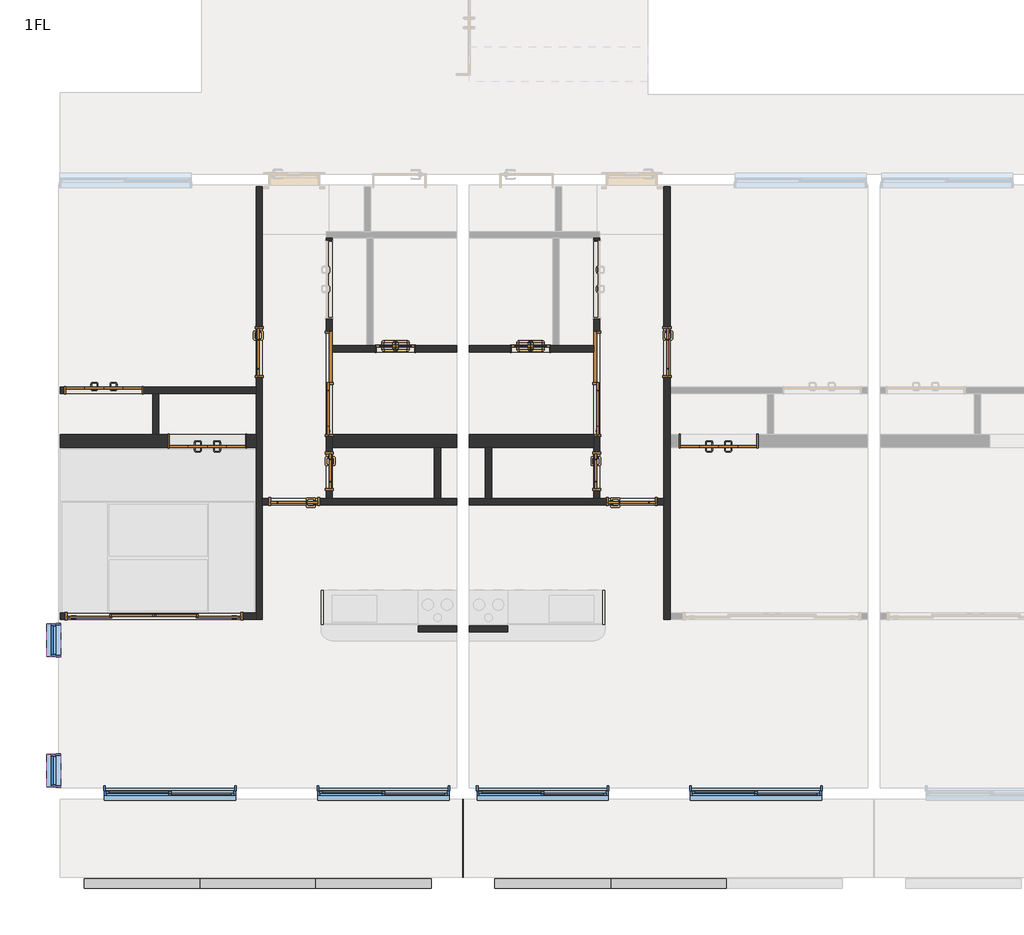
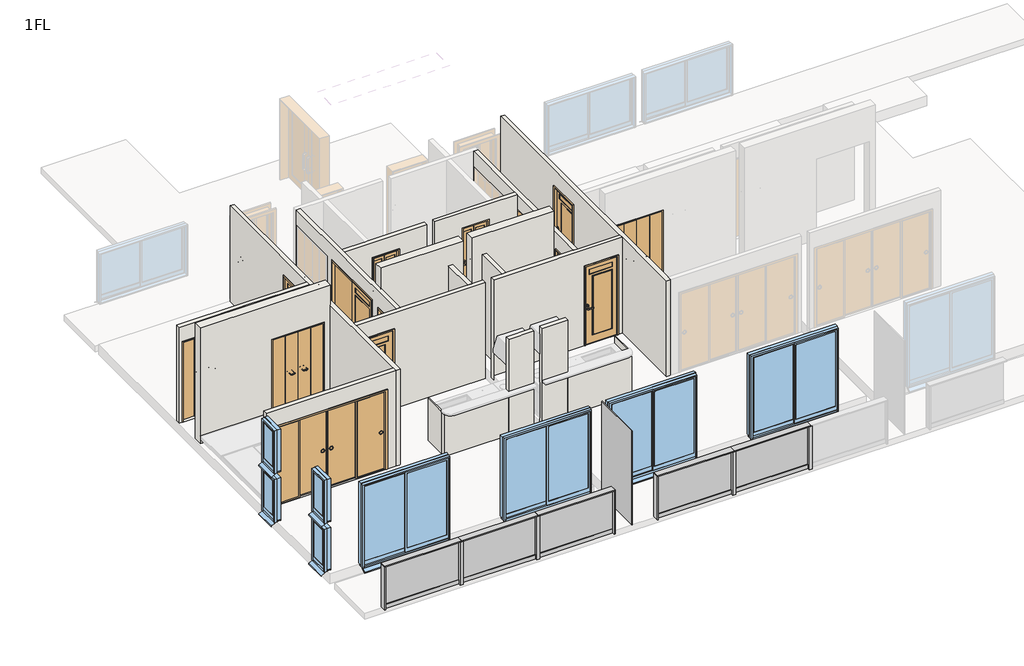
# One storey, part 1 of 3: 22 walls, 14 doors, 12 members, 8 windows, 6 plates.
"""IFC4 building model written with IfcOpenShell, lengths in millimetres."""

from ifc_helpers import new_model, si_unit, frame, origin, place, context, project, spatial, polyline, outline, extrude, faceted_brep, transform, mapped, element, save
from components import w1200h2000_98cacc9b, w1200h2000_ebe1d490, w1200h2000_6a144d60, w1600h2000_4c3c234a, w1600h2000_ca690e72, w2800h2000_670b855b, w600h2000_7f2747f4, w600h2000_6a266bef, w600h2000_94bb9c3c, w600h2000_8ea70a65, w800h2000_13e9f519, w800h2000_ccb03061, member_25x150_3f8205e2, member_25x150_f694351b, member_70x150_851c8a9b, plate_6aa9e5b9, plate_9f48129f, plate_365944b3, window_2000x2000_f1ff98da, window_450x1000_e0a5e2da

model = new_model("IFC4")

# Units and contexts
model_context = context("Model", 3, world=origin())
ifc_project = project(units=[si_unit("LENGTHUNIT", "METRE", prefix="MILLI")], contexts=[model_context])

# Site, building, storey
site = spatial("IfcSite", under=ifc_project)
building = spatial("IfcBuilding", under=site)
storey = spatial("IfcBuildingStorey", under=building, Name="1FL", Elevation=1000.0)

# Doors
placement = place(None, origin())
w1200h2000_shape = w1200h2000_98cacc9b(model_context)
element("IfcDoor", 1, ObjectType="木製折戸 : w1200h2000", at=placement, inside=storey, context=model_context, shape_type="MappedRepresentation", body=[
    mapped(w1200h2000_shape, transform((-8741.2187246, -9820.1171638, 1100.0), x_axis=(-1.0, 0.0, 0.0), y_axis=(0.0, -1.0, 0.0), z_axis=(0.0, 0.0, 1.0))),
])
w1200h2000_2_shape = w1200h2000_ebe1d490(model_context)
element("IfcDoor", 2, ObjectType="木製折戸 : w1200h2000", at=placement, inside=storey, context=model_context, shape_type="MappedRepresentation", body=[
    mapped(w1200h2000_2_shape, transform((-716.2187246, -9820.1171638, 1100.0), x_axis=(1.0, 0.0, 0.0), y_axis=(0.0, 1.0, 0.0), z_axis=(0.0, 0.0, 1.0))),
])
w1200h2000_3_shape = w1200h2000_6a144d60(model_context)
element("IfcDoor", 3, ObjectType="木製折戸 : w1200h2000", at=placement, inside=storey, context=model_context, shape_type="MappedRepresentation", body=[
    mapped(w1200h2000_3_shape, transform((-10366.2187246, -9020.1171638, 1100.0), x_axis=(1.0, 0.0, 0.0), y_axis=(0.0, 1.0, 0.0), z_axis=(0.0, 0.0, 1.0))),
])
w1600h2000_shape = w1600h2000_4c3c234a(model_context)
element("IfcDoor", 4, ObjectType="片引戸CL2017 : w1600h2000", at=placement, inside=storey, context=model_context, shape_type="MappedRepresentation", body=[
    mapped(w1600h2000_shape, transform((-6828.7187246, -8920.1171638, 1100.0), x_axis=(0.0, -1.0, 0.0), y_axis=(1.0, 0.0, 0.0), z_axis=(0.0, 0.0, 1.0))),
])
w1600h2000_2_shape = w1600h2000_ca690e72(model_context)
element("IfcDoor", 5, ObjectType="片引戸CL2017 : w1600h2000", at=placement, inside=storey, context=model_context, shape_type="MappedRepresentation", body=[
    mapped(w1600h2000_2_shape, transform((-2628.7187246, -8920.1171638, 1100.0), x_axis=(0.0, -1.0, 0.0), y_axis=(1.0, 0.0, 0.0), z_axis=(0.0, 0.0, 1.0))),
])
w2800h2000_shape = w2800h2000_670b855b(model_context)
element("IfcDoor", 6, ObjectType="引違い 4 枚 2 溝_襖 : w2800h2000", at=placement, inside=storey, context=model_context, shape_type="MappedRepresentation", body=[
    mapped(w2800h2000_shape, transform((-9584.2542286, -12570.1171638, 1100.0), x_axis=(-1.0, 0.0, 0.0), y_axis=(0.0, -1.0, 0.0), z_axis=(0.0, 0.0, 1.0))),
])
w600h2000_shape = w600h2000_7f2747f4(model_context)
element("IfcDoor", 7, ObjectType="片開戸CL2058 : w600h2000", at=placement, inside=storey, context=model_context, shape_type="MappedRepresentation", body=[
    mapped(w600h2000_shape, transform((-6828.7187246, -10295.1171638, 1100.0), x_axis=(0.0, -1.0, 0.0), y_axis=(1.0, 0.0, 0.0), z_axis=(0.0, 0.0, 1.0))),
])
w600h2000_2_shape = w600h2000_6a266bef(model_context)
element("IfcDoor", 8, ObjectType="浴室折戸 : w600h2000", at=placement, inside=storey, context=model_context, shape_type="MappedRepresentation", body=[
    mapped(w600h2000_2_shape, transform((-5788.7187246, -8370.1171638, 1100.0), x_axis=(1.0, 0.0, 0.0), y_axis=(0.0, 1.0, 0.0), z_axis=(0.0, 0.0, 1.0))),
])
w600h2000_3_shape = w600h2000_94bb9c3c(model_context)
element("IfcDoor", 9, ObjectType="浴室折戸 : w600h2000", at=placement, inside=storey, context=model_context, shape_type="MappedRepresentation", body=[
    mapped(w600h2000_3_shape, transform((-3668.7187246, -8370.1171638, 1100.0), x_axis=(-1.0, 0.0, 0.0), y_axis=(0.0, -1.0, 0.0), z_axis=(0.0, 0.0, 1.0))),
])
w600h2000_4_shape = w600h2000_8ea70a65(model_context)
element("IfcDoor", 10, ObjectType="片開戸CL2058 : w600h2000", at=placement, inside=storey, context=model_context, shape_type="MappedRepresentation", body=[
    mapped(w600h2000_4_shape, transform((-2628.7187246, -10295.1171638, 1100.0), x_axis=(0.0, -1.0, 0.0), y_axis=(1.0, 0.0, 0.0), z_axis=(0.0, 0.0, 1.0))),
])
w800h2000_shape = w800h2000_13e9f519(model_context)
element("IfcDoor", 11, ObjectType="片開戸CL2058 : w800h2000", at=placement, inside=storey, context=model_context, shape_type="MappedRepresentation", body=[
    mapped(w800h2000_shape, transform((-7928.7187246, -8420.1171638, 1100.0), x_axis=(0.0, -1.0, 0.0), y_axis=(1.0, 0.0, 0.0), z_axis=(0.0, 0.0, 1.0))),
])
element("IfcDoor", 12, ObjectType="片開戸CL2058 : w800h2000", at=placement, inside=storey, context=model_context, shape_type="MappedRepresentation", body=[
    mapped(w800h2000_shape, transform((-2078.7187246, -10770.1171638, 1100.0), x_axis=(1.0, 0.0, 0.0), y_axis=(0.0, 1.0, 0.0), z_axis=(0.0, 0.0, 1.0))),
])
w800h2000_2_shape = w800h2000_ccb03061(model_context)
element("IfcDoor", 13, ObjectType="片開戸CL2058 : w800h2000", at=placement, inside=storey, context=model_context, shape_type="MappedRepresentation", body=[
    mapped(w800h2000_2_shape, transform((-7378.7187246, -10770.1171638, 1100.0), x_axis=(-1.0, 0.0, 0.0), y_axis=(0.0, -1.0, 0.0), z_axis=(0.0, 0.0, 1.0))),
])
element("IfcDoor", 14, ObjectType="片開戸CL2058 : w800h2000", at=placement, inside=storey, context=model_context, shape_type="MappedRepresentation", body=[
    mapped(w800h2000_2_shape, transform((-1528.7187246, -8420.1171638, 1100.0), x_axis=(0.0, -1.0, 0.0), y_axis=(1.0, 0.0, 0.0), z_axis=(0.0, 0.0, 1.0))),
])

# Members
member_25x150_shape = member_25x150_3f8205e2(model_context)
element("IfcMember", 15, ObjectType="長方形のマリオン : 25x150", at=placement, inside=storey, context=model_context, shape_type="MappedRepresentation", body=[
    mapped(member_25x150_shape, transform((-5228.7187246, -16770.1171638, 1000.0), x_axis=(1.0, 0.0, 0.0), y_axis=(0.0, -1.0, 0.0), z_axis=(0.0, 0.0, -1.0))),
])
element("IfcMember", 16, ObjectType="長方形のマリオン : 25x150", at=placement, inside=storey, context=model_context, shape_type="MappedRepresentation", body=[
    mapped(member_25x150_shape, transform((-10678.7187246, -16770.1171638, 2075.0), x_axis=(-1.0, 0.0, 0.0), y_axis=(0.0, -1.0, 0.0), z_axis=(0.0, 0.0, 1.0))),
])
element("IfcMember", 17, ObjectType="長方形のマリオン : 25x150", at=placement, inside=storey, context=model_context, shape_type="MappedRepresentation", body=[
    mapped(member_25x150_shape, transform((-4228.7187246, -16770.1171638, 2075.0), x_axis=(-1.0, 0.0, 0.0), y_axis=(0.0, -1.0, 0.0), z_axis=(0.0, 0.0, 1.0))),
])
member_25x150_2_shape = member_25x150_f694351b(model_context)
element("IfcMember", 18, ObjectType="長方形のマリオン : 25x150", at=placement, inside=storey, context=model_context, shape_type="MappedRepresentation", body=[
    mapped(member_25x150_2_shape, transform((-5228.7187246, -16770.1171638, 2100.0), x_axis=(0.0, 0.0, 1.0), y_axis=(0.0, -1.0, 0.0), z_axis=(1.0, 0.0, 0.0))),
])
element("IfcMember", 19, ObjectType="長方形のマリオン : 25x150", at=placement, inside=storey, context=model_context, shape_type="MappedRepresentation", body=[
    mapped(member_25x150_2_shape, transform((-8862.052058, -16770.1171638, 2100.0), x_axis=(0.0, 0.0, 1.0), y_axis=(0.0, -1.0, 0.0), z_axis=(1.0, 0.0, 0.0))),
])
element("IfcMember", 20, ObjectType="長方形のマリオン : 25x150", at=placement, inside=storey, context=model_context, shape_type="MappedRepresentation", body=[
    mapped(member_25x150_2_shape, transform((-2412.052058, -16770.1171638, 2100.0), x_axis=(0.0, 0.0, 1.0), y_axis=(0.0, -1.0, 0.0), z_axis=(1.0, 0.0, 0.0))),
])
element("IfcMember", 21, ObjectType="長方形のマリオン : 25x150", at=placement, inside=storey, context=model_context, shape_type="MappedRepresentation", body=[
    mapped(member_25x150_2_shape, transform((-7045.3853913, -16770.1171638, 2100.0), x_axis=(0.0, 0.0, 1.0), y_axis=(0.0, -1.0, 0.0), z_axis=(1.0, 0.0, 0.0))),
])
element("IfcMember", 22, ObjectType="長方形のマリオン : 25x150", at=placement, inside=storey, context=model_context, shape_type="MappedRepresentation", body=[
    mapped(member_25x150_2_shape, transform((-595.3853913, -16770.1171638, 2100.0), x_axis=(0.0, 0.0, 1.0), y_axis=(0.0, -1.0, 0.0), z_axis=(1.0, 0.0, 0.0))),
])
member_70x150_shape = member_70x150_851c8a9b(model_context)
element("IfcMember", 23, ObjectType="長方形のマリオン : 70x150", at=placement, inside=storey, context=model_context, shape_type="MappedRepresentation", body=[
    mapped(member_70x150_shape, transform((-8862.052058, -16770.1171638, 1000.0), x_axis=(1.0, 0.0, 0.0), y_axis=(0.0, -1.0, 0.0), z_axis=(0.0, 0.0, -1.0))),
])
element("IfcMember", 24, ObjectType="長方形のマリオン : 70x150", at=placement, inside=storey, context=model_context, shape_type="MappedRepresentation", body=[
    mapped(member_70x150_shape, transform((-7045.3853913, -16770.1171638, 1000.0), x_axis=(1.0, 0.0, 0.0), y_axis=(0.0, -1.0, 0.0), z_axis=(0.0, 0.0, -1.0))),
])
element("IfcMember", 25, ObjectType="長方形のマリオン : 70x150", at=placement, inside=storey, context=model_context, shape_type="MappedRepresentation", body=[
    mapped(member_70x150_shape, transform((-2412.052058, -16770.1171638, 1000.0), x_axis=(1.0, 0.0, 0.0), y_axis=(0.0, -1.0, 0.0), z_axis=(0.0, 0.0, -1.0))),
])
element("IfcMember", 26, ObjectType="長方形のマリオン : 70x150", at=placement, inside=storey, context=model_context, shape_type="MappedRepresentation", body=[
    mapped(member_70x150_shape, transform((-595.3853913, -16770.1171638, 1000.0), x_axis=(1.0, 0.0, 0.0), y_axis=(0.0, -1.0, 0.0), z_axis=(0.0, 0.0, -1.0))),
])

# Plates
plate_shape = plate_6aa9e5b9(model_context)
element("IfcPlate", 27, ObjectType="システム パネル : 標準", at=placement, inside=storey, context=model_context, shape_type="MappedRepresentation", body=[
    mapped(plate_shape, transform((-4728.7187246, -16056.9921638, 950.0), x_axis=(0.0, -1.0, 0.0), y_axis=(1.0, 0.0, 0.0), z_axis=(0.0, 0.0, 1.0))),
])
plate_2_shape = plate_9f48129f(model_context)
element("IfcPlate", 28, ObjectType="r パネル FIX 下框付 : 框 H100", at=placement, inside=storey, context=model_context, shape_type="MappedRepresentation", body=[
    mapped(plate_2_shape, transform((-9775.3853913, -16770.1171638, 1000.0), x_axis=(1.0, 0.0, 0.0), y_axis=(0.0, 1.0, 0.0), z_axis=(0.0, 0.0, 1.0))),
])
element("IfcPlate", 29, ObjectType="r パネル FIX 下框付 : 框 H100", at=placement, inside=storey, context=model_context, shape_type="MappedRepresentation", body=[
    mapped(plate_2_shape, transform((-6132.052058, -16770.1171638, 1000.0), x_axis=(1.0, 0.0, 0.0), y_axis=(0.0, 1.0, 0.0), z_axis=(0.0, 0.0, 1.0))),
])
element("IfcPlate", 30, ObjectType="r パネル FIX 下框付 : 框 H100", at=placement, inside=storey, context=model_context, shape_type="MappedRepresentation", body=[
    mapped(plate_2_shape, transform((-3325.3853913, -16770.1171638, 1000.0), x_axis=(1.0, 0.0, 0.0), y_axis=(0.0, 1.0, 0.0), z_axis=(0.0, 0.0, 1.0))),
])
plate_3_shape = plate_365944b3(model_context)
element("IfcPlate", 31, ObjectType="r パネル FIX 下框付 : 框 H100", at=placement, inside=storey, context=model_context, shape_type="MappedRepresentation", body=[
    mapped(plate_3_shape, transform((-7953.7187246, -16770.1171638, 1000.0), x_axis=(1.0, 0.0, 0.0), y_axis=(0.0, 1.0, 0.0), z_axis=(0.0, 0.0, 1.0))),
])
element("IfcPlate", 32, ObjectType="r パネル FIX 下框付 : 框 H100", at=placement, inside=storey, context=model_context, shape_type="MappedRepresentation", body=[
    mapped(plate_3_shape, transform((-1503.7187246, -16770.1171638, 1000.0), x_axis=(1.0, 0.0, 0.0), y_axis=(0.0, 1.0, 0.0), z_axis=(0.0, 0.0, 1.0))),
])

# Walls
element("IfcWall", 33, ObjectType="内壁(R)RC200", at=placement, inside=storey, context=model_context, shape_type="Brep", body=[
    faceted_brep([(-11052.4687246, -9920.1171638, 1000.0), (-7978.7187246, -9920.1171638, 1000.0), (-7978.7187246, -9920.1171638, 4000.0), (-11052.4687246, -9920.1171638, 4000.0), (-9361.2187246, -9920.1171638, 3120.0), (-8121.2187246, -9920.1171638, 3120.0), (-8121.2187246, -9920.1171638, 1100.0), (-9361.2187246, -9920.1171638, 1100.0), (-11052.4687246, -9720.1171638, 1000.0), (-11052.4687246, -9720.1171638, 4000.0), (-7978.7187246, -9720.1171638, 4000.0), (-7978.7187246, -9720.1171638, 1000.0), (-9503.7187246, -9720.1171638, 1000.0), (-9603.7187246, -9720.1171638, 1000.0), (-9361.2187246, -9720.1171638, 3120.0), (-9361.2187246, -9720.1171638, 1100.0), (-8121.2187246, -9720.1171638, 1100.0), (-8121.2187246, -9720.1171638, 3120.0)], [[[0, 1, 2, 3], [4, 5, 6, 7]], [[8, 9, 10, 11, 12, 13], [14, 15, 16, 17]], [[1, 0, 8, 13, 12, 11]], [[3, 2, 10, 9]], [[0, 3, 9, 8]], [[2, 1, 11, 10]], [[15, 14, 4, 7]], [[16, 15, 7, 6]], [[17, 16, 6, 5]], [[14, 17, 5, 4]]]),
])
element("IfcWall", 34, ObjectType="内壁(R)RC200", at=placement, inside=storey, context=model_context, shape_type="Brep", body=[
    faceted_brep([(-6778.7187246, -9920.1171638, 1000.0), (-5178.7187246, -9920.1171638, 1000.0), (-5078.7187246, -9920.1171638, 1000.0), (-4828.7187246, -9920.1171638, 1000.0), (-4828.7187246, -9920.1171638, 4000.0), (-6778.7187246, -9920.1171638, 4000.0), (-6778.7187246, -9720.1171638, 1000.0), (-6778.7187246, -9720.1171638, 4000.0), (-4828.7187246, -9720.1171638, 4000.0), (-4828.7187246, -9720.1171638, 1000.0)], [[[0, 1, 2, 3, 4, 5]], [[6, 7, 8, 9]], [[3, 2, 1, 0, 6, 9]], [[5, 4, 8, 7]], [[4, 3, 9, 8]], [[0, 5, 7, 6]]]),
])
element("IfcWall", 35, ObjectType="内壁(R)RC200", at=placement, inside=storey, context=model_context, shape_type="Brep", body=[
    faceted_brep([(-2678.7187246, -9720.1171638, 1000.0), (-4628.7187246, -9720.1171638, 1000.0), (-4628.7187246, -9720.1171638, 4000.0), (-2678.7187246, -9720.1171638, 4000.0), (-2678.7187246, -9920.1171638, 1000.0), (-2678.7187246, -9920.1171638, 4000.0), (-4628.7187246, -9920.1171638, 4000.0), (-4628.7187246, -9920.1171638, 1000.0), (-4378.7187246, -9920.1171638, 1000.0), (-4278.7187246, -9920.1171638, 1000.0)], [[[0, 1, 2, 3]], [[4, 5, 6, 7, 8, 9]], [[1, 0, 4, 9, 8, 7]], [[3, 2, 6, 5]], [[0, 3, 5, 4]], [[2, 1, 7, 6]]]),
])
element("IfcWall", 36, ObjectType="(F)30", at=placement, inside=storey, context=model_context, shape_type="SweptSolid", body=[
    extrude(outline(polyline([(-6951.1124404, -12720.1171638), (-6951.1124404, -12165.1171638), (-6921.1124404, -12165.1171638), (-6921.1124404, -12720.1171638), (-6951.1124404, -12720.1171638)])), frame((0.0, 0.0, 1100.0), z_axis=(0.0, 0.0, 1.0), x_axis=(1.0, 0.0, 0.0)), (0.0, 0.0, 1.0), 1060.0),
])
element("IfcWall", 37, ObjectType="(F)30", at=placement, inside=storey, context=model_context, shape_type="SweptSolid", body=[
    extrude(outline(polyline([(-2536.3250089, -12720.1171638), (-2536.3250089, -12165.1171638), (-2506.3250089, -12165.1171638), (-2506.3250089, -12720.1171638), (-2536.3250089, -12720.1171638)])), frame((0.0, 0.0, 1100.0), z_axis=(0.0, 0.0, 1.0), x_axis=(1.0, 0.0, 0.0)), (0.0, 0.0, 1.0), 1060.0),
])
element("IfcWall", 38, ObjectType="(L1)LGS100", at=placement, inside=storey, context=model_context, shape_type="Brep", body=[
    faceted_brep([(-11052.4687246, -9070.1171638, 1000.0), (-9603.7187246, -9070.1171638, 1000.0), (-9503.7187246, -9070.1171638, 1000.0), (-7978.7187246, -9070.1171638, 1000.0), (-7978.7187246, -9070.1171638, 3500.0), (-9503.7187246, -9070.1171638, 3500.0), (-9603.7187246, -9070.1171638, 3500.0), (-11052.4687246, -9070.1171638, 3500.0), (-9746.2187246, -9070.1171638, 3120.0), (-9746.2187246, -9070.1171638, 1100.0), (-10986.2187246, -9070.1171638, 1100.0), (-10986.2187246, -9070.1171638, 3120.0), (-7978.7187246, -8970.1171638, 1000.0), (-11052.4687246, -8970.1171638, 1000.0), (-11052.4687246, -8970.1171638, 3500.0), (-7978.7187246, -8970.1171638, 3500.0), (-9746.2187246, -8970.1171638, 1100.0), (-9746.2187246, -8970.1171638, 3120.0), (-10986.2187246, -8970.1171638, 3120.0), (-10986.2187246, -8970.1171638, 1100.0)], [[[0, 1, 2, 3, 4, 5, 6, 7], [8, 9, 10, 11]], [[12, 13, 14, 15], [16, 17, 18, 19]], [[3, 2, 1, 0, 13, 12]], [[7, 6, 5, 4, 15, 14]], [[0, 7, 14, 13]], [[4, 3, 12, 15]], [[8, 17, 16, 9]], [[9, 16, 19, 10]], [[17, 8, 11, 18]], [[18, 11, 10, 19]]]),
])
element("IfcWall", 39, ObjectType="(L1)LGS100", at=placement, inside=storey, context=model_context, shape_type="SweptSolid", body=[
    extrude(outline(polyline([(-9503.7187246, -9070.1171638), (-9503.7187246, -9720.1171638), (-9603.7187246, -9720.1171638), (-9603.7187246, -9070.1171638), (-9503.7187246, -9070.1171638)])), frame((0.0, 0.0, 1000.0), z_axis=(0.0, 0.0, 1.0), x_axis=(1.0, 0.0, 0.0)), (0.0, 0.0, 1.0), 2500.0),
])
element("IfcWall", 40, ObjectType="(L1)LGS100", at=placement, inside=storey, context=model_context, shape_type="Brep", body=[
    faceted_brep([(-7878.7187246, -12620.1171638, 1000.0), (-7878.7187246, -10820.1171638, 1000.0), (-7878.7187246, -10720.1171638, 1000.0), (-7878.7187246, -5826.3671638, 1000.0), (-7878.7187246, -5826.3671638, 3500.0), (-7878.7187246, -10720.1171638, 3500.0), (-7878.7187246, -10820.1171638, 3500.0), (-7878.7187246, -12620.1171638, 3500.0), (-7878.7187246, -8820.1171638, 1100.0), (-7878.7187246, -8820.1171638, 3100.0), (-7878.7187246, -8020.1171638, 3100.0), (-7878.7187246, -8020.1171638, 1100.0), (-7978.7187246, -12620.1171638, 1000.0), (-7978.7187246, -12620.1171638, 3500.0), (-7978.7187246, -12520.1171638, 3500.0), (-7978.7187246, -9070.1171638, 3500.0), (-7978.7187246, -8970.1171638, 3500.0), (-7978.7187246, -5826.3671638, 3500.0), (-7978.7187246, -5826.3671638, 1000.0), (-7978.7187246, -8970.1171638, 1000.0), (-7978.7187246, -9070.1171638, 1000.0), (-7978.7187246, -9720.1171638, 1000.0), (-7978.7187246, -9920.1171638, 1000.0), (-7978.7187246, -12520.1171638, 1000.0), (-7978.7187246, -8820.1171638, 1100.0), (-7978.7187246, -8020.1171638, 1100.0), (-7978.7187246, -8020.1171638, 3100.0), (-7978.7187246, -8820.1171638, 3100.0)], [[[0, 1, 2, 3, 4, 5, 6, 7], [8, 9, 10, 11]], [[12, 13, 14, 15, 16, 17, 18, 19, 20, 21, 22, 23], [24, 25, 26, 27]], [[3, 2, 1, 0, 12, 23, 22, 21, 20, 19, 18]], [[7, 6, 5, 4, 17, 16, 15, 14, 13]], [[4, 3, 18, 17]], [[0, 7, 13, 12]], [[9, 8, 24, 27]], [[10, 9, 27, 26]], [[11, 10, 26, 25]], [[8, 11, 25, 24]]]),
])
element("IfcWall", 41, ObjectType="(L1)LGS100", at=placement, inside=storey, context=model_context, shape_type="Brep", body=[
    faceted_brep([(-6778.7187246, -8420.1171638, 1000.0), (-4828.7187246, -8420.1171638, 1000.0), (-4828.7187246, -8420.1171638, 3500.0), (-6778.7187246, -8420.1171638, 3500.0), (-5468.7187246, -8420.1171638, 3120.0), (-5468.7187246, -8420.1171638, 1100.0), (-6108.7187246, -8420.1171638, 1100.0), (-6108.7187246, -8420.1171638, 3120.0), (-6778.7187246, -8320.1171638, 1000.0), (-6778.7187246, -8320.1171638, 3500.0), (-6238.7187246, -8320.1171638, 3500.0), (-6138.7187246, -8320.1171638, 3500.0), (-4828.7187246, -8320.1171638, 3500.0), (-4828.7187246, -8320.1171638, 1000.0), (-6138.7187246, -8320.1171638, 1000.0), (-6238.7187246, -8320.1171638, 1000.0), (-5468.7187246, -8320.1171638, 3120.0), (-6108.7187246, -8320.1171638, 3120.0), (-6108.7187246, -8320.1171638, 1100.0), (-5468.7187246, -8320.1171638, 1100.0)], [[[0, 1, 2, 3], [4, 5, 6, 7]], [[8, 9, 10, 11, 12, 13, 14, 15], [16, 17, 18, 19]], [[1, 0, 8, 15, 14, 13]], [[3, 2, 12, 11, 10, 9]], [[2, 1, 13, 12]], [[0, 3, 9, 8]], [[5, 4, 16, 19]], [[6, 5, 19, 18]], [[7, 6, 18, 17]], [[4, 7, 17, 16]]]),
])
element("IfcWall", 42, ObjectType="(L1)LGS100", at=placement, inside=storey, context=model_context, shape_type="Brep", body=[
    faceted_brep([(-6778.7187246, -10720.1171638, 1000.0), (-6778.7187246, -9920.1171638, 1000.0), (-6778.7187246, -9720.1171638, 1000.0), (-6778.7187246, -8420.1171638, 1000.0), (-6778.7187246, -8320.1171638, 1000.0), (-6778.7187246, -6630.1171638, 1000.0), (-6778.7187246, -6630.1171638, 3500.0), (-6778.7187246, -8320.1171638, 3500.0), (-6778.7187246, -8420.1171638, 3500.0), (-6778.7187246, -10720.1171638, 3500.0), (-6778.7187246, -10595.1171638, 1100.0), (-6778.7187246, -10595.1171638, 3100.0), (-6778.7187246, -9995.1171638, 3100.0), (-6778.7187246, -9995.1171638, 1100.0), (-6778.7187246, -6660.1171638, 1100.0), (-6778.7187246, -7900.1171638, 1100.0), (-6778.7187246, -7900.1171638, 3120.0), (-6778.7187246, -6660.1171638, 3120.0), (-6778.7187246, -9745.1171638, 1100.0), (-6778.7187246, -9745.1171638, 3140.0), (-6778.7187246, -8095.1171638, 3140.0), (-6778.7187246, -8095.1171638, 1100.0), (-6878.7187246, -6630.1171638, 1000.0), (-6878.7187246, -10720.1171638, 1000.0), (-6878.7187246, -10720.1171638, 3500.0), (-6878.7187246, -6630.1171638, 3500.0), (-6878.7187246, -10595.1171638, 3100.0), (-6878.7187246, -10595.1171638, 1100.0), (-6878.7187246, -9995.1171638, 1100.0), (-6878.7187246, -9995.1171638, 3100.0), (-6878.7187246, -7900.1171638, 1100.0), (-6878.7187246, -6660.1171638, 1100.0), (-6878.7187246, -6660.1171638, 3120.0), (-6878.7187246, -7900.1171638, 3120.0), (-6878.7187246, -9745.1171638, 1100.0), (-6878.7187246, -8095.1171638, 1100.0), (-6878.7187246, -8095.1171638, 3140.0), (-6878.7187246, -9745.1171638, 3140.0)], [[[0, 1, 2, 3, 4, 5, 6, 7, 8, 9], [10, 11, 12, 13], [14, 15, 16, 17], [18, 19, 20, 21]], [[22, 23, 24, 25], [26, 27, 28, 29], [30, 31, 32, 33], [34, 35, 36, 37]], [[5, 4, 3, 2, 1, 0, 23, 22]], [[9, 8, 7, 6, 25, 24]], [[0, 9, 24, 23]], [[6, 5, 22, 25]], [[11, 10, 27, 26]], [[12, 11, 26, 29]], [[13, 12, 29, 28]], [[10, 13, 28, 27]], [[14, 31, 30, 15]], [[15, 30, 33, 16]], [[16, 33, 32, 17]], [[19, 18, 34, 37]], [[20, 19, 37, 36]], [[21, 20, 36, 35]], [[18, 21, 35, 34]], [[31, 14, 17, 32]]]),
])
element("IfcWall", 43, ObjectType="(L1)LGS100", at=placement, inside=storey, context=model_context, shape_type="SweptSolid", body=[
    extrude(outline(polyline([(-5078.7187246, -9920.1171638), (-5078.7187246, -10720.1171638), (-5178.7187246, -10720.1171638), (-5178.7187246, -9920.1171638), (-5078.7187246, -9920.1171638)])), frame((0.0, 0.0, 1000.0), z_axis=(0.0, 0.0, 1.0), x_axis=(1.0, 0.0, 0.0)), (0.0, 0.0, 1.0), 2500.0),
])
element("IfcWall", 44, ObjectType="(L1)LGS100", at=placement, inside=storey, context=model_context, shape_type="Brep", body=[
    faceted_brep([(-7878.7187246, -10820.1171638, 1000.0), (-4828.7187246, -10820.1171638, 1000.0), (-4828.7187246, -10820.1171638, 3500.0), (-7878.7187246, -10820.1171638, 3500.0), (-7778.7187246, -10820.1171638, 1100.0), (-7778.7187246, -10820.1171638, 3100.0), (-6978.7187246, -10820.1171638, 3100.0), (-6978.7187246, -10820.1171638, 1100.0), (-4828.7187246, -10720.1171638, 1000.0), (-5078.7187246, -10720.1171638, 1000.0), (-5178.7187246, -10720.1171638, 1000.0), (-6778.7187246, -10720.1171638, 1000.0), (-6878.7187246, -10720.1171638, 1000.0), (-7878.7187246, -10720.1171638, 1000.0), (-7878.7187246, -10720.1171638, 3500.0), (-6878.7187246, -10720.1171638, 3500.0), (-6778.7187246, -10720.1171638, 3500.0), (-5178.7187246, -10720.1171638, 3500.0), (-5078.7187246, -10720.1171638, 3500.0), (-4828.7187246, -10720.1171638, 3500.0), (-7778.7187246, -10720.1171638, 3100.0), (-7778.7187246, -10720.1171638, 1100.0), (-6978.7187246, -10720.1171638, 1100.0), (-6978.7187246, -10720.1171638, 3100.0)], [[[0, 1, 2, 3], [4, 5, 6, 7]], [[8, 9, 10, 11, 12, 13, 14, 15, 16, 17, 18, 19], [20, 21, 22, 23]], [[1, 0, 13, 12, 11, 10, 9, 8]], [[3, 2, 19, 18, 17, 16, 15, 14]], [[2, 1, 8, 19]], [[0, 3, 14, 13]], [[4, 21, 20, 5]], [[5, 20, 23, 6]], [[6, 23, 22, 7]], [[21, 4, 7, 22]]]),
])
element("IfcWall", 45, ObjectType="(L1)LGS100", at=placement, inside=storey, context=model_context, shape_type="SweptSolid", body=[
    extrude(outline(polyline([(1000.0, -11052.4687246), (1000.0, -7978.7187246), (3500.0, -7978.7187246), (3500.0, -11052.4687246), (1000.0, -11052.4687246)]), holes=[polyline([(3100.0, -10978.7187246), (3100.0, -8178.7187246), (1100.0, -8178.7187246), (1100.0, -10978.7187246), (3100.0, -10978.7187246)])]), frame((0.0, -12620.1171638, 0.0), z_axis=(0.0, 1.0, 0.0), x_axis=(0.0, 0.0, 1.0)), (0.0, 0.0, 1.0), 100.0),
])
element("IfcWall", 46, ObjectType="(L1)LGS100", at=placement, inside=storey, context=model_context, shape_type="Brep", body=[
    faceted_brep([(-1478.7187246, -12620.1171638, 1000.0), (-1478.7187246, -12520.1171638, 1000.0), (-1478.7187246, -9920.1171638, 1000.0), (-1478.7187246, -9720.1171638, 1000.0), (-1478.7187246, -9070.1171638, 1000.0), (-1478.7187246, -8970.1171638, 1000.0), (-1478.7187246, -5826.3671638, 1000.0), (-1478.7187246, -5826.3671638, 3500.0), (-1478.7187246, -8970.1171638, 3500.0), (-1478.7187246, -9070.1171638, 3500.0), (-1478.7187246, -12520.1171638, 3500.0), (-1478.7187246, -12620.1171638, 3500.0), (-1478.7187246, -8820.1171638, 1100.0), (-1478.7187246, -8820.1171638, 3100.0), (-1478.7187246, -8020.1171638, 3100.0), (-1478.7187246, -8020.1171638, 1100.0), (-1578.7187246, -12620.1171638, 1000.0), (-1578.7187246, -12620.1171638, 3500.0), (-1578.7187246, -10820.1171638, 3500.0), (-1578.7187246, -10720.1171638, 3500.0), (-1578.7187246, -5826.3671638, 3500.0), (-1578.7187246, -5826.3671638, 1000.0), (-1578.7187246, -10720.1171638, 1000.0), (-1578.7187246, -10820.1171638, 1000.0), (-1578.7187246, -8820.1171638, 1100.0), (-1578.7187246, -8020.1171638, 1100.0), (-1578.7187246, -8020.1171638, 3100.0), (-1578.7187246, -8820.1171638, 3100.0)], [[[0, 1, 2, 3, 4, 5, 6, 7, 8, 9, 10, 11], [12, 13, 14, 15]], [[16, 17, 18, 19, 20, 21, 22, 23], [24, 25, 26, 27]], [[6, 5, 4, 3, 2, 1, 0, 16, 23, 22, 21]], [[11, 10, 9, 8, 7, 20, 19, 18, 17]], [[0, 11, 17, 16]], [[13, 12, 24, 27]], [[14, 13, 27, 26]], [[15, 14, 26, 25]], [[12, 15, 25, 24]], [[7, 6, 21, 20]]]),
])
element("IfcWall", 47, ObjectType="(L1)LGS100", at=placement, inside=storey, context=model_context, shape_type="Brep", body=[
    faceted_brep([(-2678.7187246, -8320.1171638, 1000.0), (-3218.7187246, -8320.1171638, 1000.0), (-3318.7187246, -8320.1171638, 1000.0), (-4628.7187246, -8320.1171638, 1000.0), (-4628.7187246, -8320.1171638, 3500.0), (-3318.7187246, -8320.1171638, 3500.0), (-3218.7187246, -8320.1171638, 3500.0), (-2678.7187246, -8320.1171638, 3500.0), (-3988.7187246, -8320.1171638, 3120.0), (-3988.7187246, -8320.1171638, 1100.0), (-3348.7187246, -8320.1171638, 1100.0), (-3348.7187246, -8320.1171638, 3120.0), (-2678.7187246, -8420.1171638, 1000.0), (-2678.7187246, -8420.1171638, 3500.0), (-4628.7187246, -8420.1171638, 3500.0), (-4628.7187246, -8420.1171638, 1000.0), (-3988.7187246, -8420.1171638, 3120.0), (-3348.7187246, -8420.1171638, 3120.0), (-3348.7187246, -8420.1171638, 1100.0), (-3988.7187246, -8420.1171638, 1100.0)], [[[0, 1, 2, 3, 4, 5, 6, 7], [8, 9, 10, 11]], [[12, 13, 14, 15], [16, 17, 18, 19]], [[3, 2, 1, 0, 12, 15]], [[7, 6, 5, 4, 14, 13]], [[0, 7, 13, 12]], [[9, 8, 16, 19]], [[10, 9, 19, 18]], [[11, 10, 18, 17]], [[8, 11, 17, 16]], [[4, 3, 15, 14]]]),
])
element("IfcWall", 48, ObjectType="(L1)LGS100", at=placement, inside=storey, context=model_context, shape_type="Brep", body=[
    faceted_brep([(-2578.7187246, -10720.1171638, 1000.0), (-2578.7187246, -6630.1171638, 1000.0), (-2578.7187246, -6630.1171638, 3500.0), (-2578.7187246, -10720.1171638, 3500.0), (-2578.7187246, -10595.1171638, 1100.0), (-2578.7187246, -10595.1171638, 3100.0), (-2578.7187246, -9995.1171638, 3100.0), (-2578.7187246, -9995.1171638, 1100.0), (-2578.7187246, -6660.1171638, 1100.0), (-2578.7187246, -7900.1171638, 1100.0), (-2578.7187246, -7900.1171638, 3120.0), (-2578.7187246, -6660.1171638, 3120.0), (-2578.7187246, -9745.1171638, 1100.0), (-2578.7187246, -9745.1171638, 3140.0), (-2578.7187246, -8095.1171638, 3140.0), (-2578.7187246, -8095.1171638, 1100.0), (-2678.7187246, -6630.1171638, 1000.0), (-2678.7187246, -8320.1171638, 1000.0), (-2678.7187246, -8420.1171638, 1000.0), (-2678.7187246, -9720.1171638, 1000.0), (-2678.7187246, -9920.1171638, 1000.0), (-2678.7187246, -10720.1171638, 1000.0), (-2678.7187246, -10720.1171638, 3500.0), (-2678.7187246, -8420.1171638, 3500.0), (-2678.7187246, -8320.1171638, 3500.0), (-2678.7187246, -6630.1171638, 3500.0), (-2678.7187246, -10595.1171638, 3100.0), (-2678.7187246, -10595.1171638, 1100.0), (-2678.7187246, -9995.1171638, 1100.0), (-2678.7187246, -9995.1171638, 3100.0), (-2678.7187246, -7900.1171638, 1100.0), (-2678.7187246, -6660.1171638, 1100.0), (-2678.7187246, -6660.1171638, 3120.0), (-2678.7187246, -7900.1171638, 3120.0), (-2678.7187246, -9745.1171638, 1100.0), (-2678.7187246, -8095.1171638, 1100.0), (-2678.7187246, -8095.1171638, 3140.0), (-2678.7187246, -9745.1171638, 3140.0)], [[[0, 1, 2, 3], [4, 5, 6, 7], [8, 9, 10, 11], [12, 13, 14, 15]], [[16, 17, 18, 19, 20, 21, 22, 23, 24, 25], [26, 27, 28, 29], [30, 31, 32, 33], [34, 35, 36, 37]], [[1, 0, 21, 20, 19, 18, 17, 16]], [[3, 2, 25, 24, 23, 22]], [[0, 3, 22, 21]], [[5, 4, 27, 26]], [[6, 5, 26, 29]], [[7, 6, 29, 28]], [[4, 7, 28, 27]], [[8, 31, 30, 9]], [[9, 30, 33, 10]], [[10, 33, 32, 11]], [[13, 12, 34, 37]], [[14, 13, 37, 36]], [[15, 14, 36, 35]], [[12, 15, 35, 34]], [[31, 8, 11, 32]], [[2, 1, 16, 25]]]),
])
element("IfcWall", 49, ObjectType="(L1)LGS100", at=placement, inside=storey, context=model_context, shape_type="SweptSolid", body=[
    extrude(outline(polyline([(-4278.7187246, -9920.1171638), (-4278.7187246, -10720.1171638), (-4378.7187246, -10720.1171638), (-4378.7187246, -9920.1171638), (-4278.7187246, -9920.1171638)])), frame((0.0, 0.0, 1000.0), z_axis=(0.0, 0.0, 1.0), x_axis=(1.0, 0.0, 0.0)), (0.0, 0.0, 1.0), 2500.0),
])
element("IfcWall", 50, ObjectType="(L1)LGS100", at=placement, inside=storey, context=model_context, shape_type="Brep", body=[
    faceted_brep([(-1578.7187246, -10720.1171638, 1000.0), (-2578.7187246, -10720.1171638, 1000.0), (-2678.7187246, -10720.1171638, 1000.0), (-4278.7187246, -10720.1171638, 1000.0), (-4378.7187246, -10720.1171638, 1000.0), (-4628.7187246, -10720.1171638, 1000.0), (-4628.7187246, -10720.1171638, 3500.0), (-4378.7187246, -10720.1171638, 3500.0), (-4278.7187246, -10720.1171638, 3500.0), (-2678.7187246, -10720.1171638, 3500.0), (-2578.7187246, -10720.1171638, 3500.0), (-1578.7187246, -10720.1171638, 3500.0), (-1678.7187246, -10720.1171638, 1100.0), (-1678.7187246, -10720.1171638, 3100.0), (-2478.7187246, -10720.1171638, 3100.0), (-2478.7187246, -10720.1171638, 1100.0), (-4628.7187246, -10820.1171638, 1000.0), (-1578.7187246, -10820.1171638, 1000.0), (-1578.7187246, -10820.1171638, 3500.0), (-4628.7187246, -10820.1171638, 3500.0), (-1678.7187246, -10820.1171638, 3100.0), (-1678.7187246, -10820.1171638, 1100.0), (-2478.7187246, -10820.1171638, 1100.0), (-2478.7187246, -10820.1171638, 3100.0)], [[[0, 1, 2, 3, 4, 5, 6, 7, 8, 9, 10, 11], [12, 13, 14, 15]], [[16, 17, 18, 19], [20, 21, 22, 23]], [[5, 4, 3, 2, 1, 0, 17, 16]], [[11, 10, 9, 8, 7, 6, 19, 18]], [[0, 11, 18, 17]], [[12, 21, 20, 13]], [[13, 20, 23, 14]], [[14, 23, 22, 15]], [[21, 12, 15, 22]], [[6, 5, 16, 19]]]),
])
element("IfcWall", 51, ObjectType="(L1)LGS100", at=placement, inside=storey, context=model_context, shape_type="Brep", body=[
    faceted_brep([(-4828.7187246, -12720.1171638, 1000.0), (-5428.7187246, -12720.1171638, 1000.0), (-5428.7187246, -12720.1171638, 2160.0), (-5428.7187246, -12720.1171638, 3500.0), (-4828.7187246, -12720.1171638, 3500.0), (-4828.7187246, -12820.1171638, 1000.0), (-4828.7187246, -12820.1171638, 3500.0), (-5428.7187246, -12820.1171638, 3500.0), (-5428.7187246, -12820.1171638, 2160.0), (-5428.7187246, -12820.1171638, 1000.0)], [[[0, 1, 2, 3, 4]], [[5, 6, 7, 8, 9]], [[1, 0, 5, 9]], [[3, 2, 1, 9, 8, 7]], [[4, 3, 7, 6]], [[0, 4, 6, 5]]]),
])
element("IfcWall", 52, ObjectType="(L1)LGS100", at=placement, inside=storey, context=model_context, shape_type="Brep", body=[
    faceted_brep([(-6951.1124404, -12820.1171638, 1000.0), (-5428.7187246, -12820.1171638, 1000.0), (-5428.7187246, -12820.1171638, 2160.0), (-6951.1124404, -12820.1171638, 2160.0), (-6951.1124404, -12720.1171638, 1000.0), (-6951.1124404, -12720.1171638, 1100.0), (-6951.1124404, -12720.1171638, 2160.0), (-6921.1124404, -12720.1171638, 2160.0), (-5428.7187246, -12720.1171638, 2160.0), (-5428.7187246, -12720.1171638, 1000.0)], [[[0, 1, 2, 3]], [[4, 5, 6, 7, 8, 9]], [[1, 0, 4, 9]], [[2, 1, 9, 8]], [[3, 2, 8, 7, 6]], [[0, 3, 6, 5, 4]]]),
])
element("IfcWall", 53, ObjectType="(L1)LGS100", at=placement, inside=storey, context=model_context, shape_type="Brep", body=[
    faceted_brep([(-4628.7187246, -12820.1171638, 1000.0), (-4028.7187246, -12820.1171638, 1000.0), (-4028.7187246, -12820.1171638, 2160.0), (-4028.7187246, -12820.1171638, 3500.0), (-4628.7187246, -12820.1171638, 3500.0), (-4628.7187246, -12720.1171638, 1000.0), (-4628.7187246, -12720.1171638, 3500.0), (-4028.7187246, -12720.1171638, 3500.0), (-4028.7187246, -12720.1171638, 2160.0), (-4028.7187246, -12720.1171638, 1000.0)], [[[0, 1, 2, 3, 4]], [[5, 6, 7, 8, 9]], [[1, 0, 5, 9]], [[3, 2, 1, 9, 8, 7]], [[4, 3, 7, 6]], [[0, 4, 6, 5]]]),
])
element("IfcWall", 54, ObjectType="(L1)LGS100", at=placement, inside=storey, context=model_context, shape_type="Brep", body=[
    faceted_brep([(-2506.3250089, -12720.1171638, 1000.0), (-4028.7187246, -12720.1171638, 1000.0), (-4028.7187246, -12720.1171638, 2160.0), (-2536.3250089, -12720.1171638, 2160.0), (-2506.3250089, -12720.1171638, 2160.0), (-2506.3250089, -12720.1171638, 1100.0), (-2506.3250089, -12820.1171638, 1000.0), (-2506.3250089, -12820.1171638, 2160.0), (-4028.7187246, -12820.1171638, 2160.0), (-4028.7187246, -12820.1171638, 1000.0)], [[[0, 1, 2, 3, 4, 5]], [[6, 7, 8, 9]], [[1, 0, 6, 9]], [[2, 1, 9, 8]], [[4, 3, 2, 8, 7]], [[0, 5, 4, 7, 6]]]),
])

# Windows
window_2000x2000_shape = window_2000x2000_f1ff98da(model_context)
element("IfcWindow", 55, ObjectType="鋼製_一般枠_引違い-二枚 : 2000x2000", at=placement, inside=storey, context=model_context, shape_type="MappedRepresentation", body=[
    mapped(window_2000x2000_shape, transform((-9328.7187246, -15343.8671638, 200.0), x_axis=(-1.0, 0.0, 0.0), y_axis=(0.0, -1.0, 0.0), z_axis=(0.0, 0.0, 1.0))),
])
element("IfcWindow", 56, ObjectType="鋼製_一般枠_引違い-二枚 : 2000x2000", at=placement, inside=storey, context=model_context, shape_type="MappedRepresentation", body=[
    mapped(window_2000x2000_shape, transform((-5978.7187246, -15343.8671638, 200.0), x_axis=(-1.0, 0.0, 0.0), y_axis=(0.0, -1.0, 0.0), z_axis=(0.0, 0.0, 1.0))),
])
element("IfcWindow", 57, ObjectType="鋼製_一般枠_引違い-二枚 : 2000x2000", at=placement, inside=storey, context=model_context, shape_type="MappedRepresentation", body=[
    mapped(window_2000x2000_shape, transform((-128.7187246, -15343.8671638, 200.0), x_axis=(-1.0, 0.0, 0.0), y_axis=(0.0, -1.0, 0.0), z_axis=(0.0, 0.0, 1.0))),
])
element("IfcWindow", 58, ObjectType="鋼製_一般枠_引違い-二枚 : 2000x2000", at=placement, inside=storey, context=model_context, shape_type="MappedRepresentation", body=[
    mapped(window_2000x2000_shape, transform((-3478.7187246, -15343.8671638, 200.0), x_axis=(-1.0, 0.0, 0.0), y_axis=(0.0, -1.0, 0.0), z_axis=(0.0, 0.0, 1.0))),
])
window_450x1000_shape = window_450x1000_e0a5e2da(model_context)
element("IfcWindow", 59, ObjectType="鋼製_一般枠_嵌殺し : 450x1000", at=placement, inside=storey, context=model_context, shape_type="MappedRepresentation", body=[
    mapped(window_450x1000_shape, transform((-11152.4687246, -14995.1171638, 10.0), x_axis=(0.0, 1.0, 0.0), y_axis=(-1.0, 0.0, 0.0), z_axis=(0.0, 0.0, 1.0))),
])
element("IfcWindow", 60, ObjectType="鋼製_一般枠_嵌殺し : 450x1000", at=placement, inside=storey, context=model_context, shape_type="MappedRepresentation", body=[
    mapped(window_450x1000_shape, transform((-11152.4687246, -12945.1171638, 10.0), x_axis=(0.0, 1.0, 0.0), y_axis=(-1.0, 0.0, 0.0), z_axis=(0.0, 0.0, 1.0))),
])
element("IfcWindow", 61, ObjectType="鋼製_一般枠_嵌殺し : 450x1000", at=placement, inside=storey, context=model_context, shape_type="MappedRepresentation", body=[
    mapped(window_450x1000_shape, transform((-11152.4687246, -14995.1171638, 1230.0), x_axis=(0.0, 1.0, 0.0), y_axis=(-1.0, 0.0, 0.0), z_axis=(0.0, 0.0, 1.0))),
])
element("IfcWindow", 62, ObjectType="鋼製_一般枠_嵌殺し : 450x1000", at=placement, inside=storey, context=model_context, shape_type="MappedRepresentation", body=[
    mapped(window_450x1000_shape, transform((-11152.4687246, -12945.1171638, 1230.0), x_axis=(0.0, 1.0, 0.0), y_axis=(-1.0, 0.0, 0.0), z_axis=(0.0, 0.0, 1.0))),
])

save(model, "model.ifc")
